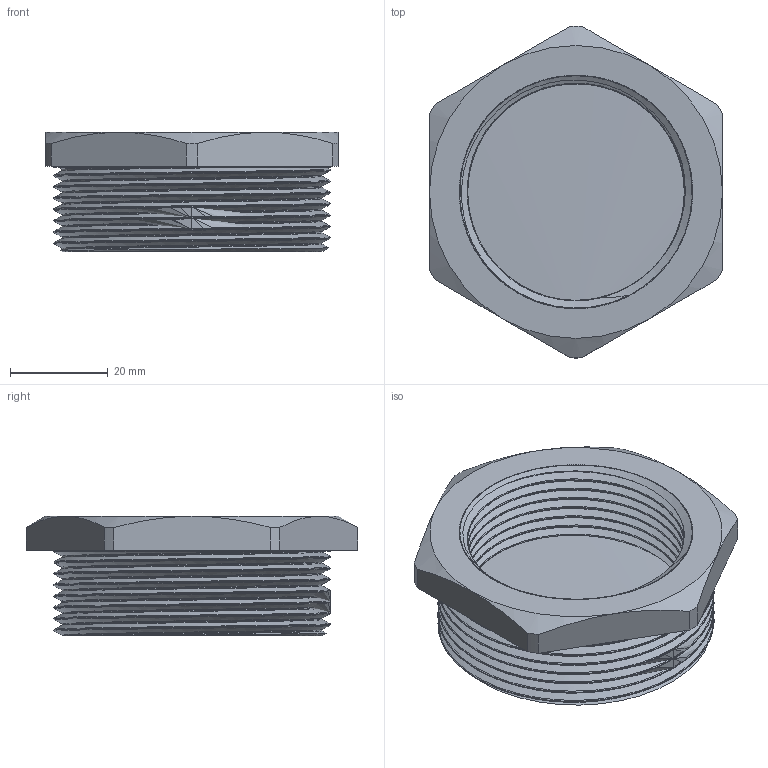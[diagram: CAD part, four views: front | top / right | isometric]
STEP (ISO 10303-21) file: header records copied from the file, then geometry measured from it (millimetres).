
FILE_DESCRIPTION(/* description */ (''),/* implementation_level */ '2;1');
FILE_NAME(/* name */ 'C:\Users\Doom\Desktop\Фадотех\Резьба\PF14 18.03.2020\PF14 18.03.2020.stp',/* time_stamp */ '2022-01-16T00:25:01+02:00',/* author */ ('Doom'),/* organization */ (''),/* preprocessor_version */ 'ST-DEVELOPER v18',/* originating_system */ 'Autodesk Inventor 2020',/* authorisation */ '');
FILE_SCHEMA (('AUTOMOTIVE_DESIGN { 1 0 10303 214 3 1 1 }'));
Length unit declared in the file: millimetre
Products named in the file (1): PF14 18.03.2020
Bounding box: 60 x 68 x 24.5 mm (x, y, z)
Volume: 30788.8 mm3; surface area: 28165.5 mm2
Topology: 3 solids, 3 shells, 67 faces, 175 edges, 116 vertices
Faces by surface type: cylinder 32, plane 15, bspline 12, cone 8
Full cylindrical faces by diameter (mm): 44.376 x8, 47.8 x2, 49 x1, 53.176 x2, 56.6 x9
Entity records: 10938 total; most frequent: CARTESIAN_POINT 9413, ORIENTED_EDGE 346, DIRECTION 248, EDGE_CURVE 173, VERTEX_POINT 115, AXIS2_PLACEMENT_3D 103, EDGE_LOOP 76, B_SPLINE_CURVE_WITH_KNOTS 72
